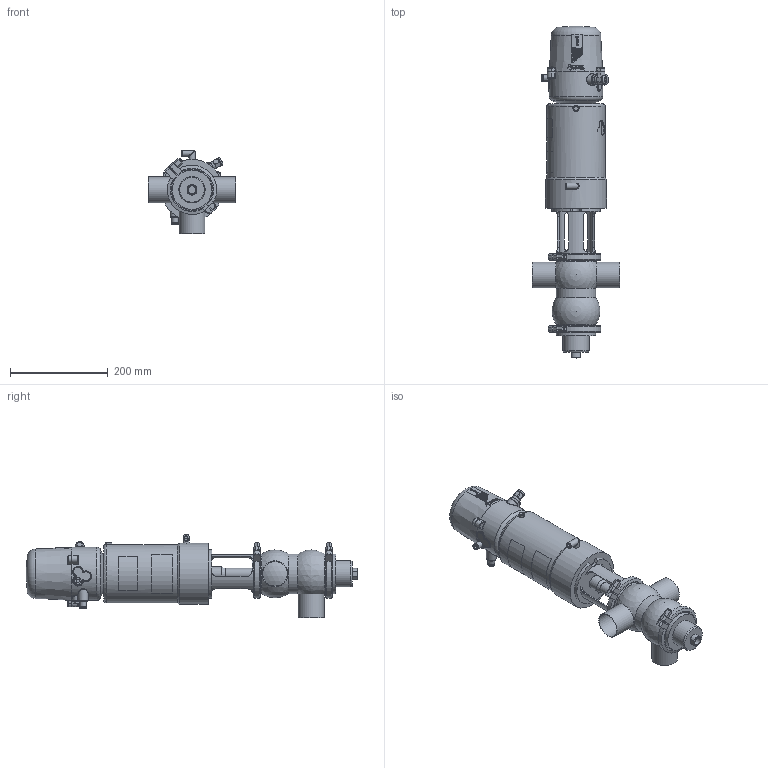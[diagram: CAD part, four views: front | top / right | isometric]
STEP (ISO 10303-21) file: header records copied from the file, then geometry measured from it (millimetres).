
FILE_DESCRIPTION (( 'STEP AP214' ), '1' );
FILE_NAME ('INNOVA S AB-90 W DIN 050 & C-TOP S_10.251.16.0011.STEP', '2024-08-19T11:00:56', ( '' ), ( '' ), 'SwSTEP 2.0', 'SolidWorks 2023', '' );
FILE_SCHEMA (( 'AUTOMOTIVE_DESIGN' ));
Length unit declared in the file: millimetre
Products named in the file (7): INNOVA S AB-90 W DIN 050 & C-TOP S_10.251.16.0011; 10.240.15.0001_DN 050; 10.251.15.0002_DN 050; 10.250.15.0002_Type S T1; 10.426.15.0001_C-TOP S - 1 EV; 10.251.15.0003_DIN 050; 10.251.15.0001_DN 050
Assembly tree (7 placements, depth 2):
  INNOVA S AB-90 W DIN 050 & C-TOP S_10.251.16.0011
    10.251.15.0001_DN 050
    10.250.15.0002_Type S T1
    10.426.15.0001_C-TOP S - 1 EV
    10.251.15.0003_DIN 050
    10.240.15.0001_DN 050  x2
    10.251.15.0002_DN 050
Bounding box: 180 x 680 x 171 mm (x, y, z)
Volume: 5246387.7 mm3; surface area: 401953.3 mm2
Topology: 7 solids, 7 shells, 1190 faces, 2873 edges, 1908 vertices
Faces by surface type: plane 414, cylinder 372, cone 202, bspline 160, torus 33, sphere 9
Full cylindrical faces by diameter (mm): 0.371 x17, 0.512 x16, 0.658 x16, 0.795 x16, 0.94 x15, 1.098 x15, 1.241 x13, 1.382 x13, 1.523 x11, 1.669 x10, 2.201 x1, 4.2 x2, 5 x1, 5.5 x2, 6 x3, 6.15 x1, 8 x5, 8.5 x1, 10 x1, 10.5 x2, 11 x2, 12.5 x6, 13 x2, 13.5 x2, 16 x1, 17 x3, 20 x2, 22 x2, 23 x1, 28 x1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
Entity records: 58346 total; most frequent: CARTESIAN_POINT 27470, ORIENTED_EDGE 4604, DIRECTION 3719, EDGE_CURVE 2302, VERTEX_POINT 1629, EDGE_LOOP 1585, AXIS2_PLACEMENT_3D 1517, FACE_OUTER_BOUND 1346
